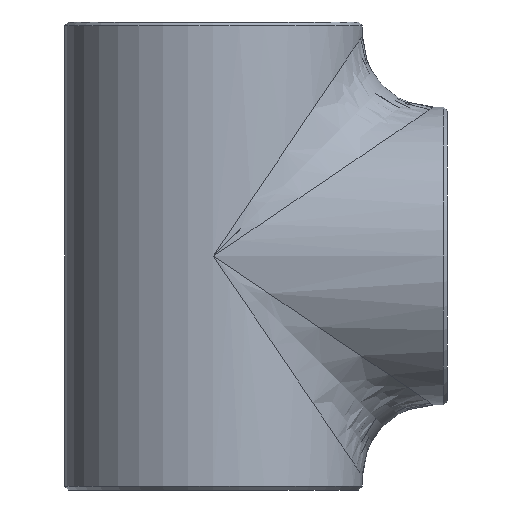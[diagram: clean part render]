
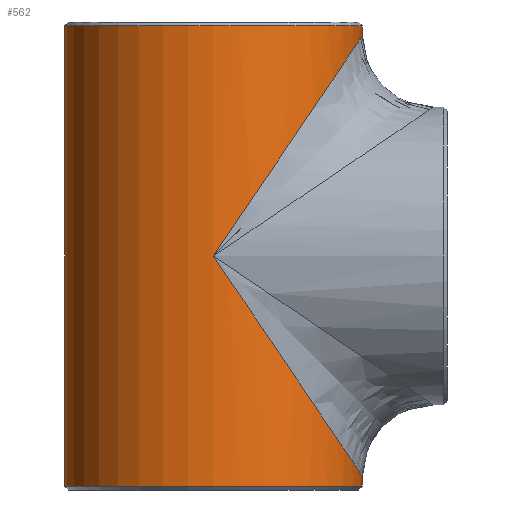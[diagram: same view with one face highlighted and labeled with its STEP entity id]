
A CAD part, front view. The second image highlights one B-rep face of the part: STEP entity #562.
In plain terms, the highlighted cylindrical face has radius 177.8 mm (diameter 355.6 mm), a partial arc.
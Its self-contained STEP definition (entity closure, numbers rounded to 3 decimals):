
#6 = CARTESIAN_POINT ( 'NONE',  ( 177.8, 0., -262.8 ) ) ;
#23 = FACE_OUTER_BOUND ( 'NONE', #209, .T. ) ;
#89 = AXIS2_PLACEMENT_3D ( 'NONE', #416, #1282, #1037 ) ;
#123 = VECTOR ( 'NONE', #1357, 1000. ) ;
#134 = CARTESIAN_POINT ( 'NONE',  ( 0., -177.8, 0. ) ) ;
#141 = DIRECTION ( 'NONE',  ( 0., 0., -1. ) ) ;
#158 = ORIENTED_EDGE ( 'NONE', *, *, #1516, .T. ) ;
#209 = EDGE_LOOP ( 'NONE', ( #858, #1612, #158, #1330, #527, #918, #1180 ) ) ;
#217 = EDGE_CURVE ( 'NONE', #865, #835, #1332, .T. ) ;
#244 = CARTESIAN_POINT ( 'NONE',  ( 177.8, 0., 262.8 ) ) ;
#271 = DIRECTION ( 'NONE',  ( 0., 0., -1. ) ) ;
#301 = VERTEX_POINT ( 'NONE', #244 ) ;
#365 = LINE ( 'NONE', #1081, #123 ) ;
#416 = CARTESIAN_POINT ( 'NONE',  ( 0., 0., 279.4 ) ) ;
#417 = VERTEX_POINT ( 'NONE', #660 ) ;
#423 =( BOUNDED_CURVE ( )  B_SPLINE_CURVE ( 3, ( #563, #1065, #1574, #441 ),
 .UNSPECIFIED., .F., .T. ) 
 B_SPLINE_CURVE_WITH_KNOTS ( ( 4, 4 ),
 ( 1.571, 3.142 ),
 .UNSPECIFIED. ) 
 CURVE ( )  GEOMETRIC_REPRESENTATION_ITEM ( )  RATIONAL_B_SPLINE_CURVE ( ( 1., 0.805, 0.805, 1. ) ) 
 REPRESENTATION_ITEM ( '' )  );
#441 = CARTESIAN_POINT ( 'NONE',  ( 177.8, 0., 262.8 ) ) ;
#473 = CARTESIAN_POINT ( 'NONE',  ( 0., 0., -274.67 ) ) ;
#498 = LINE ( 'NONE', #1374, #962 ) ;
#518 = LINE ( 'NONE', #741, #808 ) ;
#527 = ORIENTED_EDGE ( 'NONE', *, *, #903, .F. ) ;
#528 = CYLINDRICAL_SURFACE ( 'NONE', #89, 177.8 ) ;
#562 = ADVANCED_FACE ( 'NONE', ( #23 ), #528, .T. ) ;
#563 = CARTESIAN_POINT ( 'NONE',  ( 0., -177.8, 0. ) ) ;
#590 = CARTESIAN_POINT ( 'NONE',  ( 177.8, -104.153, -262.8 ) ) ;
#612 = EDGE_CURVE ( 'NONE', #1049, #417, #1144, .T. ) ;
#622 = AXIS2_PLACEMENT_3D ( 'NONE', #473, #1340, #1226 ) ;
#644 = VERTEX_POINT ( 'NONE', #657 ) ;
#657 = CARTESIAN_POINT ( 'NONE',  ( -177.8, 0., -274.67 ) ) ;
#660 = CARTESIAN_POINT ( 'NONE',  ( -177.8, 0., 274.67 ) ) ;
#741 = CARTESIAN_POINT ( 'NONE',  ( -177.8, 0., 279.4 ) ) ;
#805 = AXIS2_PLACEMENT_3D ( 'NONE', #1262, #1140, #1520 ) ;
#808 = VECTOR ( 'NONE', #271, 1000. ) ;
#835 = VERTEX_POINT ( 'NONE', #134 ) ;
#846 = CARTESIAN_POINT ( 'NONE',  ( 104.153, -177.8, -153.945 ) ) ;
#858 = ORIENTED_EDGE ( 'NONE', *, *, #1177, .F. ) ;
#865 = VERTEX_POINT ( 'NONE', #6 ) ;
#903 = EDGE_CURVE ( 'NONE', #865, #1602, #498, .T. ) ;
#918 = ORIENTED_EDGE ( 'NONE', *, *, #217, .T. ) ;
#962 = VECTOR ( 'NONE', #141, 1000. ) ;
#992 = CARTESIAN_POINT ( 'NONE',  ( 177.8, 0., -274.67 ) ) ;
#1025 = EDGE_CURVE ( 'NONE', #835, #301, #423, .T. ) ;
#1031 = CARTESIAN_POINT ( 'NONE',  ( 0., -177.8, 0. ) ) ;
#1037 = DIRECTION ( 'NONE',  ( -1., 0., 0. ) ) ;
#1049 = VERTEX_POINT ( 'NONE', #1442 ) ;
#1065 = CARTESIAN_POINT ( 'NONE',  ( 104.153, -177.8, 153.945 ) ) ;
#1081 = CARTESIAN_POINT ( 'NONE',  ( 177.8, 0., 279.4 ) ) ;
#1124 = EDGE_CURVE ( 'NONE', #644, #1602, #1175, .T. ) ;
#1140 = DIRECTION ( 'NONE',  ( 0., 0., -1. ) ) ;
#1144 = CIRCLE ( 'NONE', #805, 177.8 ) ;
#1175 = CIRCLE ( 'NONE', #622, 177.8 ) ;
#1177 = EDGE_CURVE ( 'NONE', #1049, #301, #365, .T. ) ;
#1180 = ORIENTED_EDGE ( 'NONE', *, *, #1025, .T. ) ;
#1226 = DIRECTION ( 'NONE',  ( 1., 0., 0. ) ) ;
#1262 = CARTESIAN_POINT ( 'NONE',  ( 0., 0., 274.67 ) ) ;
#1282 = DIRECTION ( 'NONE',  ( 0., 0., -1. ) ) ;
#1330 = ORIENTED_EDGE ( 'NONE', *, *, #1124, .T. ) ;
#1332 =( BOUNDED_CURVE ( )  B_SPLINE_CURVE ( 3, ( #1337, #590, #846, #1031 ),
 .UNSPECIFIED., .F., .T. ) 
 B_SPLINE_CURVE_WITH_KNOTS ( ( 4, 4 ),
 ( 3.142, 4.712 ),
 .UNSPECIFIED. ) 
 CURVE ( )  GEOMETRIC_REPRESENTATION_ITEM ( )  RATIONAL_B_SPLINE_CURVE ( ( 1., 0.805, 0.805, 1. ) ) 
 REPRESENTATION_ITEM ( '' )  );
#1337 = CARTESIAN_POINT ( 'NONE',  ( 177.8, 0., -262.8 ) ) ;
#1340 = DIRECTION ( 'NONE',  ( 0., 0., 1. ) ) ;
#1357 = DIRECTION ( 'NONE',  ( 0., 0., -1. ) ) ;
#1374 = CARTESIAN_POINT ( 'NONE',  ( 177.8, 0., 279.4 ) ) ;
#1442 = CARTESIAN_POINT ( 'NONE',  ( 177.8, 0., 274.67 ) ) ;
#1516 = EDGE_CURVE ( 'NONE', #417, #644, #518, .T. ) ;
#1520 = DIRECTION ( 'NONE',  ( 1., 0., 0. ) ) ;
#1574 = CARTESIAN_POINT ( 'NONE',  ( 177.8, -104.153, 262.8 ) ) ;
#1602 = VERTEX_POINT ( 'NONE', #992 ) ;
#1612 = ORIENTED_EDGE ( 'NONE', *, *, #612, .T. ) ;
